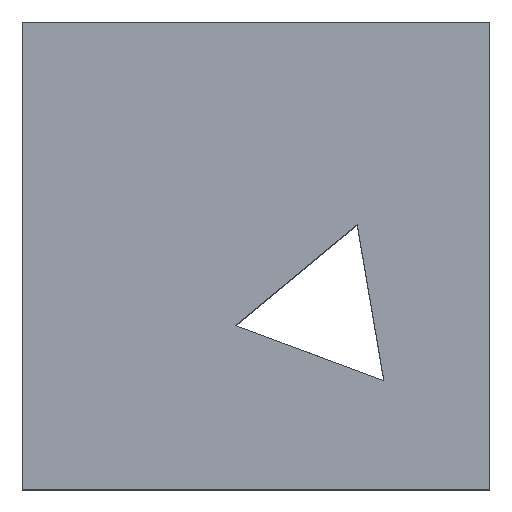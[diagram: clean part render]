
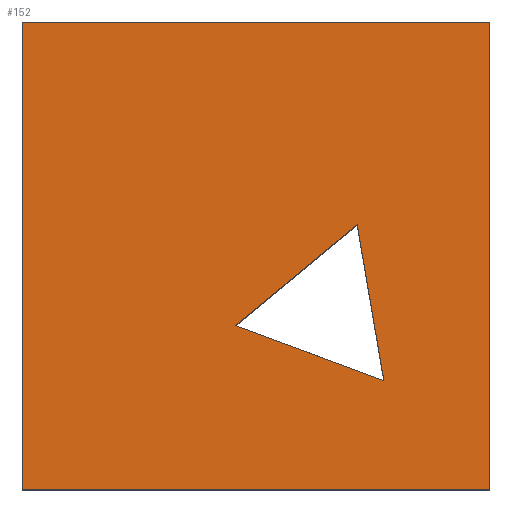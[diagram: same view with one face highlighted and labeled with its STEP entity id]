
A CAD part, top view. The second image highlights one B-rep face of the part: STEP entity #152.
In plain terms, the highlighted planar face has unit normal (0, 0, 1).
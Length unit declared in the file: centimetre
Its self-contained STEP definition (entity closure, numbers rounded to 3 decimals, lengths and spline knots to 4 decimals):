
#13 = ORIENTED_EDGE ( 'NONE', *, *, #647, .T. ) ;
#41 = VECTOR ( 'NONE', #516, 100. ) ;
#50 = CARTESIAN_POINT ( 'NONE',  ( 773.6884, 232.3873, 1000. ) ) ;
#99 = VERTEX_POINT ( 'NONE', #601 ) ;
#111 = LINE ( 'NONE', #169, #757 ) ;
#139 = ORIENTED_EDGE ( 'NONE', *, *, #584, .T. ) ;
#152 = ADVANCED_FACE ( 'NONE', ( #447, #830 ), #529, .T. ) ;
#154 = VERTEX_POINT ( 'NONE', #282 ) ;
#157 = DIRECTION ( 'NONE',  ( 1., 0., 0. ) ) ;
#169 = CARTESIAN_POINT ( 'NONE',  ( 716.6257, 567.115, 1000. ) ) ;
#176 = LINE ( 'NONE', #260, #448 ) ;
#181 = CARTESIAN_POINT ( 'NONE',  ( 0., 1000., 1000. ) ) ;
#184 = LINE ( 'NONE', #580, #418 ) ;
#218 = DIRECTION ( 'NONE',  ( 1., 0., 0. ) ) ;
#219 = VECTOR ( 'NONE', #157, 100. ) ;
#260 = CARTESIAN_POINT ( 'NONE',  ( 0., 1000., 1000. ) ) ;
#261 = CARTESIAN_POINT ( 'NONE',  ( 1000., 1000., 1000. ) ) ;
#282 = CARTESIAN_POINT ( 'NONE',  ( 773.6884, 232.3873, 1000. ) ) ;
#283 = EDGE_CURVE ( 'NONE', #154, #997, #184, .T. ) ;
#295 = EDGE_LOOP ( 'NONE', ( #389, #616, #13, #386 ) ) ;
#366 = VECTOR ( 'NONE', #979, 100. ) ;
#386 = ORIENTED_EDGE ( 'NONE', *, *, #525, .T. ) ;
#389 = ORIENTED_EDGE ( 'NONE', *, *, #603, .T. ) ;
#407 = VERTEX_POINT ( 'NONE', #494 ) ;
#418 = VECTOR ( 'NONE', #506, 100. ) ;
#441 = VERTEX_POINT ( 'NONE', #261 ) ;
#445 = LINE ( 'NONE', #50, #366 ) ;
#447 = FACE_BOUND ( 'NONE', #959, .T. ) ;
#448 = VECTOR ( 'NONE', #488, 100. ) ;
#466 = AXIS2_PLACEMENT_3D ( 'NONE', #746, #589, #218 ) ;
#469 = CARTESIAN_POINT ( 'NONE',  ( 0., 0., 1000. ) ) ;
#488 = DIRECTION ( 'NONE',  ( 0., -1., 0. ) ) ;
#494 = CARTESIAN_POINT ( 'NONE',  ( 0., 0., 1000. ) ) ;
#506 = DIRECTION ( 'NONE',  ( -0.938, 0.347, 0. ) ) ;
#516 = DIRECTION ( 'NONE',  ( -1., 0., 0. ) ) ;
#524 = LINE ( 'NONE', #469, #219 ) ;
#525 = EDGE_CURVE ( 'NONE', #441, #676, #755, .T. ) ;
#529 = PLANE ( 'NONE',  #466 ) ;
#543 = EDGE_CURVE ( 'NONE', #99, #154, #445, .T. ) ;
#571 = CARTESIAN_POINT ( 'NONE',  ( 1000., 0., 1000. ) ) ;
#580 = CARTESIAN_POINT ( 'NONE',  ( 455.2744, 350.3333, 1000. ) ) ;
#584 = EDGE_CURVE ( 'NONE', #997, #99, #111, .T. ) ;
#589 = DIRECTION ( 'NONE',  ( 0., 0., 1. ) ) ;
#601 = CARTESIAN_POINT ( 'NONE',  ( 716.6257, 567.115, 1000. ) ) ;
#603 = EDGE_CURVE ( 'NONE', #676, #407, #176, .T. ) ;
#616 = ORIENTED_EDGE ( 'NONE', *, *, #875, .T. ) ;
#647 = EDGE_CURVE ( 'NONE', #700, #441, #811, .T. ) ;
#676 = VERTEX_POINT ( 'NONE', #181 ) ;
#700 = VERTEX_POINT ( 'NONE', #571 ) ;
#708 = DIRECTION ( 'NONE',  ( 0.77, 0.638, 0. ) ) ;
#732 = DIRECTION ( 'NONE',  ( 0., 1., 0. ) ) ;
#741 = CARTESIAN_POINT ( 'NONE',  ( 0., 1000., 1000. ) ) ;
#746 = CARTESIAN_POINT ( 'NONE',  ( 0., 0., 1000. ) ) ;
#755 = LINE ( 'NONE', #741, #41 ) ;
#757 = VECTOR ( 'NONE', #708, 100. ) ;
#811 = LINE ( 'NONE', #869, #920 ) ;
#830 = FACE_OUTER_BOUND ( 'NONE', #295, .T. ) ;
#858 = ORIENTED_EDGE ( 'NONE', *, *, #543, .T. ) ;
#861 = CARTESIAN_POINT ( 'NONE',  ( 455.2744, 350.3333, 1000. ) ) ;
#869 = CARTESIAN_POINT ( 'NONE',  ( 1000., 1000., 1000. ) ) ;
#875 = EDGE_CURVE ( 'NONE', #407, #700, #524, .T. ) ;
#920 = VECTOR ( 'NONE', #732, 100. ) ;
#959 = EDGE_LOOP ( 'NONE', ( #858, #992, #139 ) ) ;
#979 = DIRECTION ( 'NONE',  ( 0.168, -0.986, 0. ) ) ;
#992 = ORIENTED_EDGE ( 'NONE', *, *, #283, .T. ) ;
#997 = VERTEX_POINT ( 'NONE', #861 ) ;
